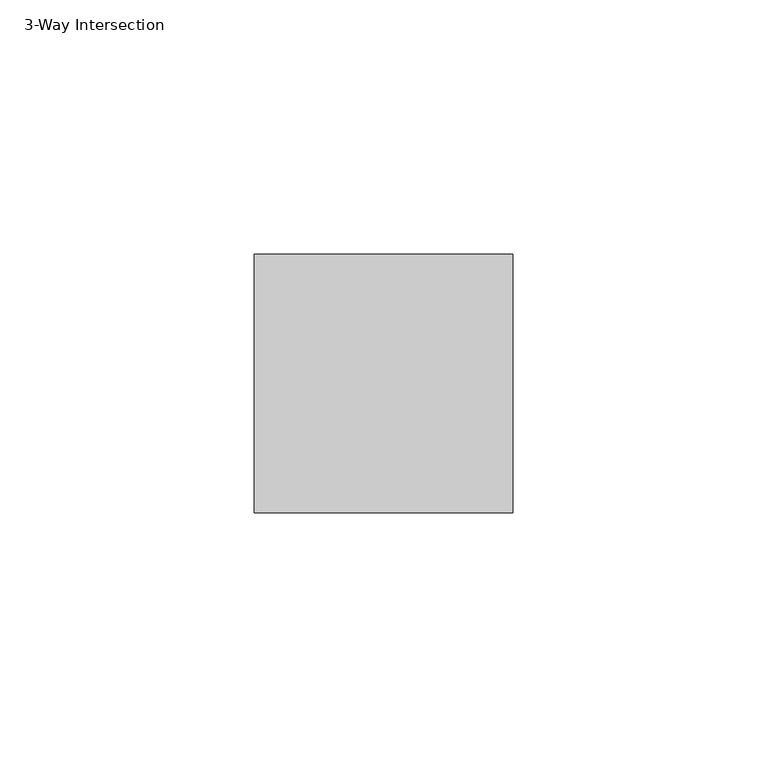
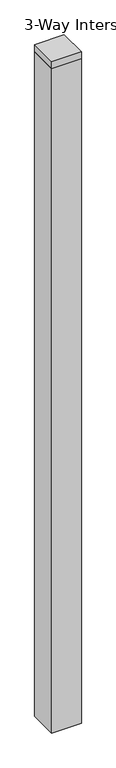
"""IFC4 building model written with IfcOpenShell, lengths in millimetres: furniture geometry, Haworth_UniGroupToo_Post : 3-Way Intersection."""

import ifcopenshell
import ifcopenshell.guid

model = None  # the IFC model being written
_history = None  # IfcOwnerHistory: only IFC2X3 demands one
_inside = {}  # id of a spatial element -> (the spatial element, [elements in it])
_under = {}  # id of a project, library or spatial element -> (it, [spatial elements below it])
_declared = {}  # id of a project -> (the project, [libraries it declares])
_typed = {}  # id of a type object -> (the type object, [elements of that type])
_made_of = {}  # id of a material, layer set ... -> (it, [elements and type objects made of it])


def new_model(schema):
    """Start an empty IFC model of exactly this schema.

    Asked for "IFC4X3", IfcOpenShell would pick the latest addendum, in which some entities
    have other attributes; the version numbers below select the first issue.
    IFC2X3 requires an IfcOwnerHistory on every rooted entity: one is made here for all.
    """
    global model, _history
    if schema == "IFC4X3":
        model = ifcopenshell.file(schema_version=(4, 3, 0, 0))
    else:
        model = ifcopenshell.file(schema=schema)
    _inside.clear()
    _under.clear()
    _declared.clear()
    _typed.clear()
    _made_of.clear()
    _history = None
    if model.schema == "IFC2X3":
        org = make("IfcOrganization", Name="unknown")
        user = make(
            "IfcPersonAndOrganization",
            ThePerson=make("IfcPerson", FamilyName="unknown"),
            TheOrganization=org,
        )
        app = make(
            "IfcApplication",
            ApplicationDeveloper=org,
            Version="unknown",
            ApplicationFullName="unknown",
            ApplicationIdentifier="unknown",
        )
        _history = make(
            "IfcOwnerHistory",
            OwningUser=user,
            OwningApplication=app,
            ChangeAction="ADDED",
            CreationDate=0,
        )
    return model


def make(cls, **values):
    """One entity of the class cls with the attributes given. An attribute that is None is left unset."""
    return model.create_entity(
        cls, **{name: value for name, value in values.items() if value is not None}
    )


def rooted(cls, **values):
    """An entity with a GlobalId (a new one), such as an element, a storey or a relation."""
    return make(cls, GlobalId=ifcopenshell.guid.new(), OwnerHistory=_history, **values)


def si_unit(unit_type, name, prefix=None):
    """IfcSIUnit, for example si_unit("LENGTHUNIT", "METRE", prefix="MILLI")."""
    return make("IfcSIUnit", UnitType=unit_type, Prefix=prefix, Name=name)


def assignment(units):
    """IfcUnitAssignment: the units of a project."""
    return None if units is None else make("IfcUnitAssignment", Units=units)


def point(xyz):
    """IfcCartesianPoint."""
    return None if xyz is None else make("IfcCartesianPoint", Coordinates=xyz)


def direction(xyz):
    """IfcDirection."""
    return None if xyz is None else make("IfcDirection", DirectionRatios=xyz)


def frame(location, z_axis=None, x_axis=None):
    """IfcAxis2Placement3D, a coordinate frame: its origin and axes. An axis left out is left unset."""
    return make(
        "IfcAxis2Placement3D",
        Location=point(location),
        Axis=direction(z_axis),
        RefDirection=direction(x_axis),
    )


def origin():
    """The frame at (0, 0, 0) with its axes left unset."""
    return frame((0.0, 0.0, 0.0))


def origin_with_axes():
    """The frame at (0, 0, 0) with the z axis (0, 0, 1) and the x axis (1, 0, 0) written out."""
    return frame((0.0, 0.0, 0.0), z_axis=(0.0, 0.0, 1.0), x_axis=(1.0, 0.0, 0.0))


def place(relative_to, where):
    """IfcLocalPlacement: puts the frame where relative to a parent placement (None: the world)."""
    return make(
        "IfcLocalPlacement", PlacementRelTo=relative_to, RelativePlacement=where
    )


def context(
    kind, dimensions, precision=None, world=None, true_north=None, identifier=None
):
    """IfcGeometricRepresentationContext, for example the 3D "Model" context."""
    return make(
        "IfcGeometricRepresentationContext",
        ContextIdentifier=identifier,
        ContextType=kind,
        CoordinateSpaceDimension=dimensions,
        Precision=precision,
        WorldCoordinateSystem=world,
        TrueNorth=true_north,
    )


def project(units=None, contexts=None):
    """IfcProject with its units and contexts."""
    return rooted(
        "IfcProject",
        Name="project",
        RepresentationContexts=contexts,
        UnitsInContext=assignment(units),
    )


def spatial(cls, under=None, at=None, **own):
    """A site, building, storey or space (cls), placed at a placement, below another one or the project."""
    s = rooted(cls, ObjectPlacement=at, **own)
    if under is not None:
        _under.setdefault(under.id(), (under, []))[1].append(s)
    return s


def polyline(points):
    """IfcPolyline through the points."""
    return make("IfcPolyline", Points=[point(p) for p in points])


def outline(outer, holes=None, kind="AREA"):
    """IfcArbitraryClosedProfileDef: a profile drawn as a closed curve; with holes, ...WithVoids."""
    if holes is None:
        return make("IfcArbitraryClosedProfileDef", ProfileType=kind, OuterCurve=outer)
    return make(
        "IfcArbitraryProfileDefWithVoids",
        ProfileType=kind,
        OuterCurve=outer,
        InnerCurves=holes,
    )


def extrude(swept, where, along, depth):
    """IfcExtrudedAreaSolid: the profile swept, set in the frame where, extruded along a direction by depth."""
    return make(
        "IfcExtrudedAreaSolid",
        SweptArea=swept,
        Position=where,
        ExtrudedDirection=direction(along),
        Depth=depth,
    )


def shape(context_of_items, identifier, shape_type, items):
    """IfcShapeRepresentation: the items that make up one representation, for example the "Body"."""
    return make(
        "IfcShapeRepresentation",
        ContextOfItems=context_of_items,
        RepresentationIdentifier=identifier,
        RepresentationType=shape_type,
        Items=items,
    )


def source(mapping_origin, context_of_items, identifier, shape_type, items):
    """IfcRepresentationMap: a shape defined once, which mapped items show again and again."""
    return make(
        "IfcRepresentationMap",
        MappingOrigin=mapping_origin,
        MappedRepresentation=shape(context_of_items, identifier, shape_type, items),
    )


def transform(
    local_origin,
    x_axis=None,
    y_axis=None,
    z_axis=None,
    scale=None,
    scale2=None,
    scale3=None,
    uniform=True,
):
    """IfcCartesianTransformationOperator3D, or its non-uniform kind. x_axis, y_axis, z_axis: its Axis1, 2, 3."""
    if uniform:
        return make(
            "IfcCartesianTransformationOperator3D",
            Axis1=direction(x_axis),
            Axis2=direction(y_axis),
            LocalOrigin=point(local_origin),
            Scale=scale,
            Axis3=direction(z_axis),
        )
    return make(
        "IfcCartesianTransformationOperator3DnonUniform",
        Axis1=direction(x_axis),
        Axis2=direction(y_axis),
        LocalOrigin=point(local_origin),
        Scale=scale,
        Axis3=direction(z_axis),
        Scale2=scale2,
        Scale3=scale3,
    )


def mapped(mapping_source, mapping_target):
    """IfcMappedItem: shows the shape of a source again, moved by a transform."""
    return make(
        "IfcMappedItem", MappingSource=mapping_source, MappingTarget=mapping_target
    )


def made_of(thing, what):
    """Note that an element or type object is made of a material, layer set ...; save() writes the relation."""
    if what is not None:
        _made_of.setdefault(what.id(), (what, []))[1].append(thing)
    return thing


def element(
    cls,
    number,
    at=None,
    inside=None,
    cuts=None,
    type_object=None,
    material=None,
    context=None,
    identifier="Body",
    shape_type=None,
    held_by="IfcProductDefinitionShape",
    body=None,
    shapes=None,
    **own,
):
    """One element of the class cls, such as IfcWall. Its Tag is "e" and its number.

    at: its placement. inside: the storey or other place that contains it. cuts: it is an
    opening in that element (IfcRelVoidsElement). A single representation is given by context,
    identifier, shape_type and body (its items); several are given by shapes. held_by: the class
    of the entity that holds the representations. save() writes the other relations.
    """
    e = rooted(cls, Tag="e%d" % number, ObjectPlacement=at, **own)
    if body is not None:
        shapes = [shape(context, identifier, shape_type, body)]
    if shapes is not None:
        e.Representation = make(held_by, Representations=shapes)
    if inside is not None:
        _inside.setdefault(inside.id(), (inside, []))[1].append(e)
    if cuts is not None:
        rooted(
            "IfcRelVoidsElement", RelatingBuildingElement=cuts, RelatedOpeningElement=e
        )
    if type_object is not None:
        _typed.setdefault(type_object.id(), (type_object, []))[1].append(e)
    return made_of(e, material)


def aggregate(whole, parts):
    """IfcRelAggregates: a whole, such as a stair, and the parts it consists of."""
    return rooted("IfcRelAggregates", RelatingObject=whole, RelatedObjects=parts)


def save(model, path):
    """Write the relations noted so far, then the file.

    IfcRelAggregates (storeys below a building ...), IfcRelContainedInSpatialStructure (elements
    in a storey), IfcRelDefinesByType, IfcRelAssociatesMaterial and IfcRelDeclares: one each for
    every whole, place, type object, material and project.
    """
    for whole, parts in _under.values():
        aggregate(whole, parts)
    for where, things in _inside.values():
        rooted(
            "IfcRelContainedInSpatialStructure",
            RelatedElements=things,
            RelatingStructure=where,
        )
    for kind, things in _typed.values():
        rooted("IfcRelDefinesByType", RelatedObjects=things, RelatingType=kind)
    for what, things in _made_of.values():
        rooted("IfcRelAssociatesMaterial", RelatedObjects=things, RelatingMaterial=what)
    for by, libraries in _declared.values():
        rooted("IfcRelDeclares", RelatingContext=by, RelatedDefinitions=libraries)
    model.write(path)


def furniture_3_way_intersection_228444dd(model_context):
    return source(origin(), model_context, "Body", "SweptSolid", [
        extrude(outline(polyline([(12.7, 25.4), (63.5, 25.4), (63.5, -25.4), (12.7, -25.4), (12.7, 25.4)])), origin_with_axes(), (0.0, 0.0, 1.0), 1206.5),
        extrude(outline(polyline([(12.7, 25.4), (63.5, 25.4), (63.5, -25.4), (12.7, -25.4), (12.7, 25.4)])), frame((0.0, 0.0, 1206.5), z_axis=(0.0, 0.0, 1.0), x_axis=(1.0, 0.0, 0.0)), (0.0, 0.0, 1.0), 12.7),
    ])


if __name__ == "__main__":
    model = new_model("IFC4")
    model_context = context("Model", 3, world=origin())
    ifc_project = project(units=[si_unit("LENGTHUNIT", "METRE", prefix="MILLI")], contexts=[model_context])
    site = spatial("IfcSite", under=ifc_project)
    building = spatial("IfcBuilding", under=site)
    placement = place(None, origin())
    furniture_3_way_intersection_shape = furniture_3_way_intersection_228444dd(model_context)
    element("IfcFurniture", 1, ObjectType="Haworth_UniGroupToo_Post : 3-Way Intersection", at=placement, inside=building, context=model_context, shape_type="MappedRepresentation", body=[
        mapped(furniture_3_way_intersection_shape, transform((0.0, 0.0, 0.0), x_axis=(1.0, 0.0, 0.0), y_axis=(0.0, 1.0, 0.0), z_axis=(0.0, 0.0, 1.0))),
    ])
    save(model, "model.ifc")
